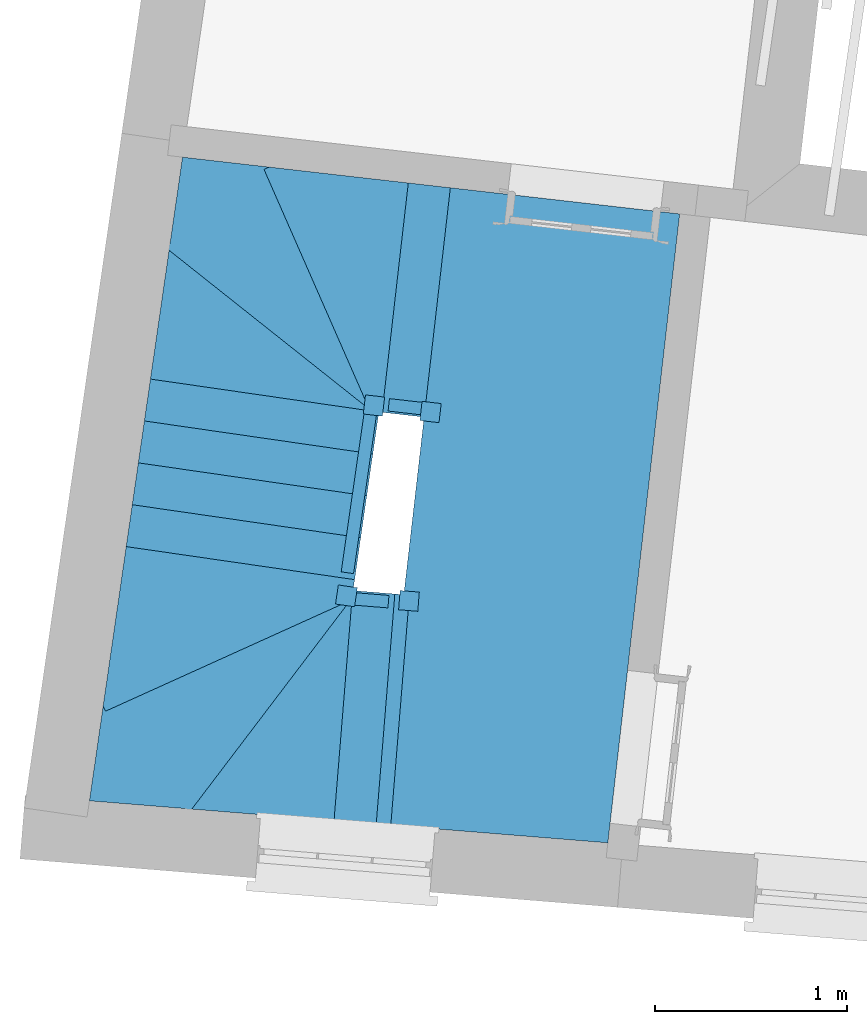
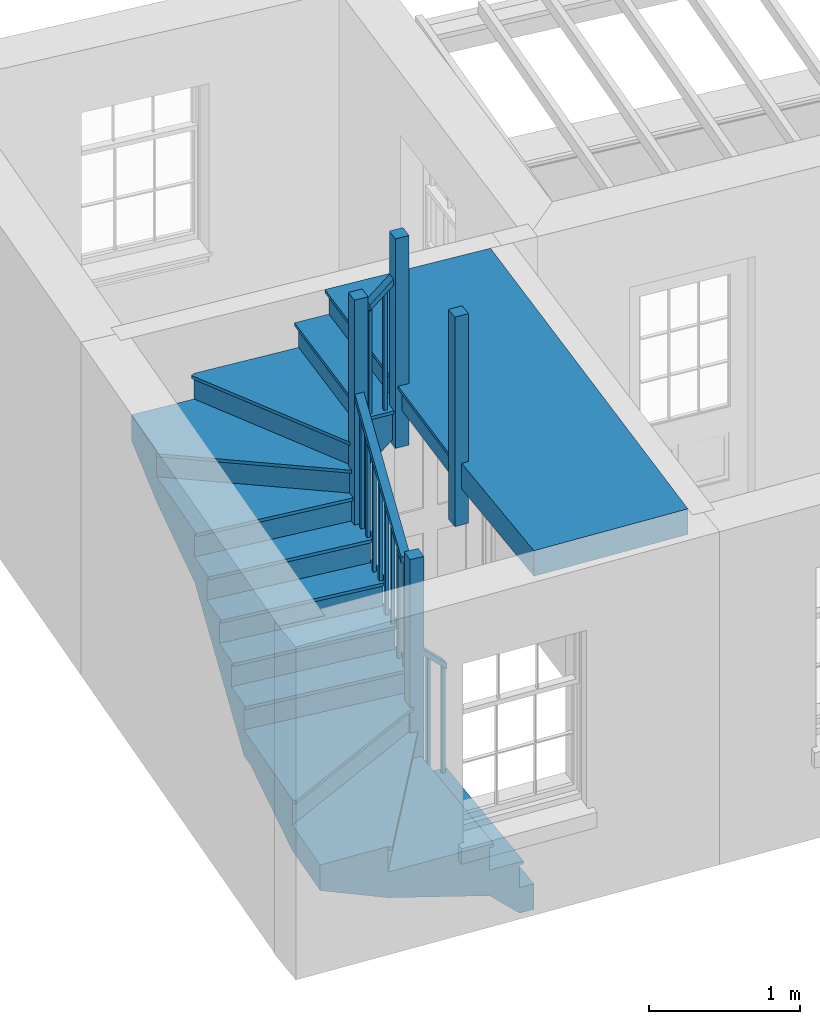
# One storey, part 5 of 5: 1 stair.
"""IFC4 building model written with IfcOpenShell, lengths in metres."""

from ifc_helpers import new_model, si_unit, frame, origin, origin_with_axes, place, context, subcontext, project, spatial, faceted_brep, element, save


model = new_model("IFC4")

# Units and contexts
model_context = context("Model", 3, world=origin_with_axes())
body_context = subcontext(model_context, "Body", "Model", "MODEL_VIEW")
ifc_project = project(units=[si_unit("PLANEANGLEUNIT", "RADIAN"), si_unit("MASSUNIT", "GRAM", prefix="KILO"), si_unit("FORCEUNIT", "NEWTON", prefix="KILO"), si_unit("LENGTHUNIT", "METRE"), si_unit("AREAUNIT", "SQUARE_METRE"), si_unit("VOLUMEUNIT", "CUBIC_METRE")], contexts=[model_context, model_context])

# Sites, building, storey
site_1_placement = place(None, origin_with_axes())
site_1 = spatial("IfcSite", under=ifc_project, at=site_1_placement, Name="Tamar")
site_2_placement = place(site_1_placement, origin_with_axes())
site_2 = spatial("IfcSite", under=site_1, at=site_2_placement, Name="Site plot-31", CompositionType="ELEMENT")
building_placement = place(None, origin_with_axes())
building = spatial("IfcBuilding", under=site_2, at=building_placement, Name="Building plot-31", CompositionType="ELEMENT")
storey_placement = place(None, frame((0.0, 0.0, 28.65), z_axis=(0.0, 0.0, 1.0), x_axis=(1.0, 0.0, 0.0)))
storey = spatial("IfcBuildingStorey", under=building, at=storey_placement, Name="plot-31 1", CompositionType="ELEMENT", Elevation=28.65)

# Stair
stair_placement = place(None, origin())
element("IfcStair", 1, at=stair_placement, inside=storey, Name="Stair", PredefinedType="NOTDEFINED", context=body_context, shape_type="Brep", body=[
    faceted_brep([(294.32439, 259.979623, 31.142308), (294.457181, 261.142063, 31.142308), (294.238602, 261.167032, 31.142308), (294.105811, 260.004593, 31.142308), (294.105811, 260.004593, 30.726923), (294.238602, 261.167032, 30.726923), (294.457181, 261.142063, 30.934615), (294.32439, 259.979623, 30.934615)], [[[0, 1, 2, 3]], [[4, 5, 6, 7]], [[7, 6, 1, 0]], [[1, 6, 5, 2]], [[5, 4, 3, 2]], [[3, 4, 7, 0]]]),
    faceted_brep([(294.208796, 261.170437, 31.117308), (294.208796, 261.170437, 31.142308), (294.238602, 261.167032, 31.117308), (294.486987, 261.138658, 31.142308), (294.486987, 261.138658, 31.117308), (294.457181, 261.142063, 31.117308), (294.238602, 261.167032, 31.142308), (294.457181, 261.142063, 31.142308), (294.0726, 259.978191, 31.142308), (294.105811, 260.004593, 31.142308), (294.105811, 260.004593, 31.117308), (294.0726, 259.978191, 31.117308), (294.350791, 259.946412, 31.142308), (294.32439, 259.979623, 31.142308), (294.32439, 259.979623, 31.117308), (294.350791, 259.946412, 31.117308)], [[[0, 1, 2]], [[3, 4, 5]], [[2, 1, 6]], [[3, 5, 7]], [[6, 1, 8, 9]], [[2, 6, 9, 10]], [[0, 2, 10, 11]], [[1, 0, 11, 8]], [[9, 8, 12, 13]], [[10, 9, 13, 14]], [[11, 10, 14, 15]], [[8, 11, 15, 12]], [[13, 12, 3, 7]], [[14, 13, 7, 5]], [[15, 14, 5, 4]], [[12, 15, 4, 3]]]),
    faceted_brep([(294.105811, 260.004593, 32.042308), (294.13065, 260.001755, 32.042308), (294.133487, 260.026594, 32.042308), (294.108649, 260.029431, 32.042308), (294.108649, 260.029431, 31.142308), (294.133487, 260.026594, 31.142308), (294.13065, 260.001755, 31.142308), (294.105811, 260.004593, 31.142308)], [[[0, 1, 2, 3]], [[4, 5, 6, 7]], [[7, 6, 1, 0]], [[6, 5, 2, 1]], [[5, 4, 3, 2]], [[4, 7, 0, 3]]]),
    faceted_brep([(294.215101, 259.992108, 32.146154), (294.239939, 259.989271, 32.146154), (294.242776, 260.014109, 32.146154), (294.217938, 260.016946, 32.146154), (294.217938, 260.016946, 31.142308), (294.242776, 260.014109, 31.142308), (294.239939, 259.989271, 31.142308), (294.215101, 259.992108, 31.142308)], [[[0, 1, 2, 3]], [[4, 5, 6, 7]], [[7, 6, 1, 0]], [[6, 5, 2, 1]], [[5, 4, 3, 2]], [[4, 7, 0, 3]]]),
    faceted_brep([(294.110919, 260.049302, 31.992308), (294.103541, 259.984722, 31.992308), (294.103541, 259.984722, 32.042308), (294.110919, 260.049302, 32.042308), (294.32212, 259.959753, 32.2), (294.329497, 260.024333, 32.2), (294.329497, 260.024333, 32.25), (294.32212, 259.959753, 32.25)], [[[0, 1, 2, 3]], [[4, 5, 6, 7]], [[0, 5, 4, 1]], [[3, 2, 7, 6]], [[0, 3, 6, 5]], [[2, 1, 4, 7]]]),
    faceted_brep([(294.105811, 260.004593, 30.934615), (294.238602, 261.167032, 30.934615), (294.163074, 261.17566, 30.934615), (294.030283, 260.01322, 30.934615), (294.030283, 260.01322, 30.726923), (294.163074, 261.17566, 30.726923), (294.238602, 261.167032, 30.726923), (294.105811, 260.004593, 30.726923)], [[[0, 1, 2, 3]], [[4, 5, 6, 7]], [[7, 6, 1, 0]], [[6, 5, 2, 1]], [[5, 4, 3, 2]], [[4, 7, 0, 3]]]),
    faceted_brep([(294.026879, 259.983414, 30.909615), (294.026879, 259.983414, 30.934615), (294.030283, 260.01322, 30.909615), (294.102406, 259.974786, 30.934615), (294.102406, 259.974786, 30.909615), (294.105811, 260.004593, 30.909615), (294.030283, 260.01322, 30.934615), (294.105811, 260.004593, 30.934615)], [[[0, 1, 2]], [[3, 4, 5]], [[2, 1, 6]], [[3, 5, 7]], [[6, 1, 3, 7]], [[2, 6, 7, 5]], [[0, 2, 5, 4]], [[1, 0, 4, 3]]]),
    faceted_brep([(293.974932, 259.969218, 32.134615), (294.074286, 259.957869, 32.134615), (294.085635, 260.057223, 32.134615), (293.986281, 260.068572, 32.134615), (293.986281, 260.068572, 30.934615), (294.085635, 260.057223, 30.934615), (294.074286, 259.957869, 30.934615), (293.974932, 259.969218, 30.934615)], [[[0, 1, 2, 3]], [[4, 5, 6, 7]], [[7, 6, 1, 0]], [[6, 5, 2, 1]], [[5, 4, 3, 2]], [[4, 7, 0, 3]]]),
    faceted_brep([(294.163074, 261.17566, 30.934615), (293.486139, 261.25299, 30.934615), (294.030283, 260.01322, 30.934615), (294.030283, 260.01322, 30.519231), (293.486139, 261.25299, 30.519231), (294.163074, 261.17566, 30.726923)], [[[0, 1, 2]], [[3, 4, 5]], [[0, 5, 4, 1]], [[4, 3, 2, 1]], [[2, 3, 5, 0]]]),
    faceted_brep([(293.486139, 261.25299, 30.909615), (293.458669, 261.240933, 30.909615), (293.486139, 261.25299, 30.934615), (294.002813, 260.001163, 30.909615), (294.030283, 260.01322, 30.909615), (294.030283, 260.01322, 30.934615), (293.458669, 261.240933, 30.934615), (294.002813, 260.001163, 30.934615)], [[[0, 1, 2]], [[3, 4, 5]], [[1, 6, 2]], [[7, 3, 5]], [[2, 6, 7, 5]], [[0, 2, 5, 4]], [[1, 0, 4, 3]], [[6, 1, 3, 7]]]),
    faceted_brep([(293.486139, 261.25299, 30.726923), (293.034849, 261.304543, 30.726923), (292.969841, 260.854994, 30.726923), (294.030283, 260.01322, 30.726923), (294.030283, 260.01322, 30.311538), (292.969841, 260.854994, 30.311538), (293.034849, 261.304543, 30.519231), (293.486139, 261.25299, 30.519231)], [[[0, 1, 2, 3]], [[4, 5, 6, 7]], [[7, 6, 1, 0]], [[1, 6, 5, 2]], [[5, 4, 3, 2]], [[3, 4, 7, 0]]]),
    faceted_brep([(292.969841, 260.854994, 30.701923), (292.951189, 260.831497, 30.701923), (292.969841, 260.854994, 30.726923), (294.011632, 259.989723, 30.701923), (294.030283, 260.01322, 30.701923), (294.030283, 260.01322, 30.726923), (292.951189, 260.831497, 30.726923), (294.011632, 259.989723, 30.726923)], [[[0, 1, 2]], [[3, 4, 5]], [[1, 6, 2]], [[7, 3, 5]], [[2, 6, 7, 5]], [[0, 2, 5, 4]], [[1, 0, 4, 3]], [[6, 1, 3, 7]]]),
    faceted_brep([(292.969841, 260.854994, 30.519231), (292.872328, 260.18067, 30.519231), (294.030283, 260.01322, 30.519231), (294.030283, 260.01322, 30.103846), (292.872328, 260.18067, 30.103846), (292.969841, 260.854994, 30.311538)], [[[0, 1, 2]], [[3, 4, 5]], [[0, 5, 4, 1]], [[4, 3, 2, 1]], [[2, 3, 5, 0]]]),
    faceted_brep([(292.868034, 260.150979, 30.494231), (292.868034, 260.150979, 30.519231), (292.872328, 260.18067, 30.494231), (294.02599, 259.983529, 30.519231), (294.02599, 259.983529, 30.494231), (294.030283, 260.01322, 30.494231), (292.872328, 260.18067, 30.519231), (294.030283, 260.01322, 30.519231)], [[[0, 1, 2]], [[3, 4, 5]], [[2, 1, 6]], [[3, 5, 7]], [[6, 1, 3, 7]], [[2, 6, 7, 5]], [[0, 2, 5, 4]], [[1, 0, 4, 3]]]),
    faceted_brep([(293.974932, 259.969218, 30.934615), (294.074286, 259.957869, 30.934615), (294.085635, 260.057223, 30.934615), (293.986281, 260.068572, 30.934615), (293.986281, 260.068572, 30.019231), (294.085635, 260.057223, 30.019231), (294.074286, 259.957869, 30.019231), (293.974932, 259.969218, 30.019231)], [[[0, 1, 2, 3]], [[4, 5, 6, 7]], [[7, 6, 1, 0]], [[6, 5, 2, 1]], [[5, 4, 3, 2]], [[4, 7, 0, 3]]]),
    faceted_brep([(294.030283, 260.01322, 30.311538), (292.872328, 260.18067, 30.311538), (292.840842, 259.962935, 30.311538), (293.998797, 259.795485, 30.311538), (293.998797, 259.795485, 29.896154), (292.840842, 259.962935, 29.896154), (292.872328, 260.18067, 30.103846), (294.030283, 260.01322, 30.103846)], [[[0, 1, 2, 3]], [[4, 5, 6, 7]], [[7, 6, 1, 0]], [[1, 6, 5, 2]], [[5, 4, 3, 2]], [[3, 4, 7, 0]]]),
    faceted_brep([(292.836548, 259.933244, 30.286538), (292.836548, 259.933244, 30.311538), (292.840842, 259.962935, 30.286538), (292.876622, 260.210361, 30.311538), (292.876622, 260.210361, 30.286538), (292.872328, 260.18067, 30.286538), (292.840842, 259.962935, 30.311538), (292.872328, 260.18067, 30.311538), (294.024195, 259.761501, 30.311538), (293.998797, 259.795485, 30.311538), (293.998797, 259.795485, 30.286538), (294.024195, 259.761501, 30.286538), (294.064268, 260.038618, 30.311538), (294.030283, 260.01322, 30.311538), (294.030283, 260.01322, 30.286538), (294.064268, 260.038618, 30.286538)], [[[0, 1, 2]], [[3, 4, 5]], [[2, 1, 6]], [[3, 5, 7]], [[6, 1, 8, 9]], [[2, 6, 9, 10]], [[0, 2, 10, 11]], [[1, 0, 11, 8]], [[9, 8, 12, 13]], [[10, 9, 13, 14]], [[11, 10, 14, 15]], [[8, 11, 15, 12]], [[13, 12, 3, 7]], [[14, 13, 7, 5]], [[15, 14, 5, 4]], [[12, 15, 4, 3]]]),
    faceted_brep([(293.998797, 259.795485, 31.211538), (294.002375, 259.820228, 31.211538), (293.977633, 259.823806, 31.211538), (293.974055, 259.799063, 31.211538), (293.974055, 259.799063, 30.311538), (293.977633, 259.823806, 30.311538), (294.002375, 259.820228, 30.311538), (293.998797, 259.795485, 30.311538)], [[[0, 1, 2, 3]], [[4, 5, 6, 7]], [[7, 6, 1, 0]], [[6, 5, 2, 1]], [[5, 4, 3, 2]], [[4, 7, 0, 3]]]),
    faceted_brep([(294.01454, 259.904353, 31.315385), (294.018118, 259.929095, 31.315385), (293.993376, 259.932673, 31.315385), (293.989798, 259.907931, 31.315385), (293.989798, 259.907931, 30.311538), (293.993376, 259.932673, 30.311538), (294.018118, 259.929095, 30.311538), (294.01454, 259.904353, 30.311538)], [[[0, 1, 2, 3]], [[4, 5, 6, 7]], [[7, 6, 1, 0]], [[6, 5, 2, 1]], [[5, 4, 3, 2]], [[4, 7, 0, 3]]]),
    faceted_brep([(293.95426, 259.801926, 31.161538), (294.018591, 259.792623, 31.161538), (294.018591, 259.792623, 31.211538), (293.95426, 259.801926, 31.211538), (294.050078, 260.010358, 31.369231), (293.985747, 260.019661, 31.369231), (293.985747, 260.019661, 31.419231), (294.050078, 260.010358, 31.419231)], [[[0, 1, 2, 3]], [[4, 5, 6, 7]], [[0, 5, 4, 1]], [[3, 2, 7, 6]], [[0, 3, 6, 5]], [[2, 1, 4, 7]]]),
    faceted_brep([(293.998797, 259.795485, 30.103846), (292.840842, 259.962935, 30.103846), (292.809356, 259.745199, 30.103846), (293.967311, 259.57775, 30.103846), (293.967311, 259.57775, 29.688462), (292.809356, 259.745199, 29.688462), (292.840842, 259.962935, 29.896154), (293.998797, 259.795485, 29.896154)], [[[0, 1, 2, 3]], [[4, 5, 6, 7]], [[7, 6, 1, 0]], [[1, 6, 5, 2]], [[5, 4, 3, 2]], [[3, 4, 7, 0]]]),
    faceted_brep([(292.805062, 259.715508, 30.078846), (292.805062, 259.715508, 30.103846), (292.809356, 259.745199, 30.078846), (292.845135, 259.992626, 30.103846), (292.845135, 259.992626, 30.078846), (292.840842, 259.962935, 30.078846), (292.809356, 259.745199, 30.103846), (292.840842, 259.962935, 30.103846), (293.992709, 259.543765, 30.103846), (293.967311, 259.57775, 30.103846), (293.967311, 259.57775, 30.078846), (293.992709, 259.543765, 30.078846), (294.032782, 259.820883, 30.103846), (293.998797, 259.795485, 30.103846), (293.998797, 259.795485, 30.078846), (294.032782, 259.820883, 30.078846)], [[[0, 1, 2]], [[3, 4, 5]], [[2, 1, 6]], [[3, 5, 7]], [[6, 1, 8, 9]], [[2, 6, 9, 10]], [[0, 2, 10, 11]], [[1, 0, 11, 8]], [[9, 8, 12, 13]], [[10, 9, 13, 14]], [[11, 10, 14, 15]], [[8, 11, 15, 12]], [[13, 12, 3, 7]], [[14, 13, 7, 5]], [[15, 14, 5, 4]], [[12, 15, 4, 3]]]),
    faceted_brep([(293.967311, 259.57775, 31.003846), (293.970889, 259.602493, 31.003846), (293.946146, 259.606071, 31.003846), (293.942568, 259.581328, 31.003846), (293.942568, 259.581328, 30.103846), (293.946146, 259.606071, 30.103846), (293.970889, 259.602493, 30.103846), (293.967311, 259.57775, 30.103846)], [[[0, 1, 2, 3]], [[4, 5, 6, 7]], [[7, 6, 1, 0]], [[6, 5, 2, 1]], [[5, 4, 3, 2]], [[4, 7, 0, 3]]]),
    faceted_brep([(293.983054, 259.686618, 31.107692), (293.986632, 259.71136, 31.107692), (293.961889, 259.714938, 31.107692), (293.958311, 259.690196, 31.107692), (293.958311, 259.690196, 30.103846), (293.961889, 259.714938, 30.103846), (293.986632, 259.71136, 30.103846), (293.983054, 259.686618, 30.103846)], [[[0, 1, 2, 3]], [[4, 5, 6, 7]], [[7, 6, 1, 0]], [[6, 5, 2, 1]], [[5, 4, 3, 2]], [[4, 7, 0, 3]]]),
    faceted_brep([(293.922774, 259.58419, 30.953846), (293.987105, 259.574888, 30.953846), (293.987105, 259.574888, 31.003846), (293.922774, 259.58419, 31.003846), (294.018591, 259.792623, 31.161538), (293.95426, 259.801926, 31.161538), (293.95426, 259.801926, 31.211538), (294.018591, 259.792623, 31.211538)], [[[0, 1, 2, 3]], [[4, 5, 6, 7]], [[0, 5, 4, 1]], [[3, 2, 7, 6]], [[0, 3, 6, 5]], [[2, 1, 4, 7]]]),
    faceted_brep([(293.967311, 259.57775, 29.896154), (292.809356, 259.745199, 29.896154), (292.777869, 259.527464, 29.896154), (293.935825, 259.360015, 29.896154), (293.935825, 259.360015, 29.480769), (292.777869, 259.527464, 29.480769), (292.809356, 259.745199, 29.688462), (293.967311, 259.57775, 29.688462)], [[[0, 1, 2, 3]], [[4, 5, 6, 7]], [[7, 6, 1, 0]], [[1, 6, 5, 2]], [[5, 4, 3, 2]], [[3, 4, 7, 0]]]),
    faceted_brep([(292.777869, 259.527464, 29.871154), (292.773576, 259.497773, 29.871154), (292.777869, 259.527464, 29.896154), (292.813649, 259.774891, 29.871154), (292.809356, 259.745199, 29.871154), (292.809356, 259.745199, 29.896154), (292.773576, 259.497773, 29.896154), (292.813649, 259.774891, 29.896154), (293.961222, 259.32603, 29.896154), (293.935825, 259.360015, 29.896154), (293.935825, 259.360015, 29.871154), (293.961222, 259.32603, 29.871154), (294.001296, 259.603148, 29.896154), (293.967311, 259.57775, 29.896154), (293.967311, 259.57775, 29.871154), (294.001296, 259.603148, 29.871154)], [[[0, 1, 2]], [[3, 4, 5]], [[1, 6, 2]], [[7, 3, 5]], [[2, 6, 8, 9]], [[0, 2, 9, 10]], [[1, 0, 10, 11]], [[6, 1, 11, 8]], [[9, 8, 12, 13]], [[10, 9, 13, 14]], [[11, 10, 14, 15]], [[8, 11, 15, 12]], [[13, 12, 7, 5]], [[14, 13, 5, 4]], [[15, 14, 4, 3]], [[12, 15, 3, 7]]]),
    faceted_brep([(293.935825, 259.360015, 30.796154), (293.939403, 259.384757, 30.796154), (293.91466, 259.388335, 30.796154), (293.911082, 259.363593, 30.796154), (293.911082, 259.363593, 29.896154), (293.91466, 259.388335, 29.896154), (293.939403, 259.384757, 29.896154), (293.935825, 259.360015, 29.896154)], [[[0, 1, 2, 3]], [[4, 5, 6, 7]], [[7, 6, 1, 0]], [[6, 5, 2, 1]], [[5, 4, 3, 2]], [[4, 7, 0, 3]]]),
    faceted_brep([(293.951568, 259.468882, 30.9), (293.955146, 259.493625, 30.9), (293.930403, 259.497203, 30.9), (293.926825, 259.47246, 30.9), (293.926825, 259.47246, 29.896154), (293.930403, 259.497203, 29.896154), (293.955146, 259.493625, 29.896154), (293.951568, 259.468882, 29.896154)], [[[0, 1, 2, 3]], [[4, 5, 6, 7]], [[7, 6, 1, 0]], [[6, 5, 2, 1]], [[5, 4, 3, 2]], [[4, 7, 0, 3]]]),
    faceted_brep([(293.891288, 259.366455, 30.746154), (293.955619, 259.357152, 30.746154), (293.955619, 259.357152, 30.796154), (293.891288, 259.366455, 30.796154), (293.987105, 259.574888, 30.953846), (293.922774, 259.58419, 30.953846), (293.922774, 259.58419, 31.003846), (293.987105, 259.574888, 31.003846)], [[[0, 1, 2, 3]], [[4, 5, 6, 7]], [[0, 5, 4, 1]], [[3, 2, 7, 6]], [[0, 3, 6, 5]], [[2, 1, 4, 7]]]),
    faceted_brep([(293.935825, 259.360015, 29.688462), (292.777869, 259.527464, 29.688462), (292.746383, 259.309729, 29.688462), (293.904339, 259.14228, 29.688462), (293.904339, 259.14228, 29.273077), (292.746383, 259.309729, 29.273077), (292.777869, 259.527464, 29.480769), (293.935825, 259.360015, 29.480769)], [[[0, 1, 2, 3]], [[4, 5, 6, 7]], [[7, 6, 1, 0]], [[1, 6, 5, 2]], [[5, 4, 3, 2]], [[3, 4, 7, 0]]]),
    faceted_brep([(292.74209, 259.280038, 29.663462), (292.74209, 259.280038, 29.688462), (292.746383, 259.309729, 29.663462), (292.782163, 259.557155, 29.688462), (292.782163, 259.557155, 29.663462), (292.777869, 259.527464, 29.663462), (292.746383, 259.309729, 29.688462), (292.777869, 259.527464, 29.688462), (293.929736, 259.108295, 29.688462), (293.904339, 259.14228, 29.688462), (293.904339, 259.14228, 29.663462), (293.929736, 259.108295, 29.663462), (293.96981, 259.385412, 29.688462), (293.935825, 259.360015, 29.688462), (293.935825, 259.360015, 29.663462), (293.96981, 259.385412, 29.663462)], [[[0, 1, 2]], [[3, 4, 5]], [[2, 1, 6]], [[3, 5, 7]], [[6, 1, 8, 9]], [[2, 6, 9, 10]], [[0, 2, 10, 11]], [[1, 0, 11, 8]], [[9, 8, 12, 13]], [[10, 9, 13, 14]], [[11, 10, 14, 15]], [[8, 11, 15, 12]], [[13, 12, 3, 7]], [[14, 13, 7, 5]], [[15, 14, 5, 4]], [[12, 15, 4, 3]]]),
    faceted_brep([(293.904339, 259.14228, 30.588462), (293.907917, 259.167022, 30.588462), (293.883174, 259.1706, 30.588462), (293.879596, 259.145858, 30.588462), (293.879596, 259.145858, 29.688462), (293.883174, 259.1706, 29.688462), (293.907917, 259.167022, 29.688462), (293.904339, 259.14228, 29.688462)], [[[0, 1, 2, 3]], [[4, 5, 6, 7]], [[7, 6, 1, 0]], [[6, 5, 2, 1]], [[5, 4, 3, 2]], [[4, 7, 0, 3]]]),
    faceted_brep([(293.920082, 259.251147, 30.692308), (293.92366, 259.27589, 30.692308), (293.898917, 259.279468, 30.692308), (293.895339, 259.254725, 30.692308), (293.895339, 259.254725, 29.688462), (293.898917, 259.279468, 29.688462), (293.92366, 259.27589, 29.688462), (293.920082, 259.251147, 29.688462)], [[[0, 1, 2, 3]], [[4, 5, 6, 7]], [[7, 6, 1, 0]], [[6, 5, 2, 1]], [[5, 4, 3, 2]], [[4, 7, 0, 3]]]),
    faceted_brep([(293.859802, 259.14872, 30.538462), (293.924133, 259.139417, 30.538462), (293.924133, 259.139417, 30.588462), (293.859802, 259.14872, 30.588462), (293.955619, 259.357152, 30.746154), (293.891288, 259.366455, 30.746154), (293.891288, 259.366455, 30.796154), (293.955619, 259.357152, 30.796154)], [[[0, 1, 2, 3]], [[4, 5, 6, 7]], [[0, 5, 4, 1]], [[3, 2, 7, 6]], [[0, 3, 6, 5]], [[2, 1, 4, 7]]]),
    faceted_brep([(293.904339, 259.14228, 29.480769), (292.746383, 259.309729, 29.480769), (292.729265, 259.191353, 29.480769), (293.887221, 259.023904, 29.480769), (293.887221, 259.023904, 29.273077), (292.729265, 259.191353, 29.273077), (292.746383, 259.309729, 29.273077), (293.904339, 259.14228, 29.273077)], [[[0, 1, 2, 3]], [[4, 5, 6, 7]], [[7, 6, 1, 0]], [[6, 5, 2, 1]], [[5, 4, 3, 2]], [[4, 7, 0, 3]]]),
    faceted_brep([(293.916912, 259.01961, 29.455769), (293.916912, 259.01961, 29.480769), (293.887221, 259.023904, 29.455769), (293.93403, 259.137986, 29.480769), (293.93403, 259.137986, 29.455769), (293.904339, 259.14228, 29.455769), (293.887221, 259.023904, 29.480769), (293.904339, 259.14228, 29.480769)], [[[0, 1, 2]], [[3, 4, 5]], [[2, 1, 6]], [[3, 5, 7]], [[6, 1, 3, 7]], [[2, 6, 7, 5]], [[0, 2, 5, 4]], [[1, 0, 4, 3]]]),
    faceted_brep([(293.92955, 258.967263, 30.680769), (293.943862, 259.066233, 30.680769), (293.844891, 259.080545, 30.680769), (293.830579, 258.981575, 30.680769), (293.830579, 258.981575, 29.480769), (293.844891, 259.080545, 29.480769), (293.943862, 259.066233, 29.480769), (293.92955, 258.967263, 29.480769)], [[[0, 1, 2, 3]], [[4, 5, 6, 7]], [[7, 6, 1, 0]], [[6, 5, 2, 1]], [[5, 4, 3, 2]], [[4, 7, 0, 3]]]),
    faceted_brep([(292.729265, 259.191353, 29.480769), (292.622286, 258.451564, 29.480769), (293.887221, 259.023904, 29.480769), (293.887221, 259.023904, 29.065385), (292.622286, 258.451564, 29.065385), (292.729265, 259.191353, 29.273077)], [[[0, 1, 2]], [[3, 4, 5]], [[0, 5, 4, 1]], [[4, 3, 2, 1]], [[2, 3, 5, 0]]]),
    faceted_brep([(292.634653, 258.424232, 29.455769), (292.634653, 258.424232, 29.480769), (292.622286, 258.451564, 29.455769), (293.899587, 258.996572, 29.480769), (293.899587, 258.996572, 29.455769), (293.887221, 259.023904, 29.455769), (292.622286, 258.451564, 29.480769), (293.887221, 259.023904, 29.480769)], [[[0, 1, 2]], [[3, 4, 5]], [[2, 1, 6]], [[3, 5, 7]], [[6, 1, 3, 7]], [[2, 6, 7, 5]], [[0, 2, 5, 4]], [[1, 0, 4, 3]]]),
    faceted_brep([(292.622286, 258.451564, 29.273077), (292.550966, 257.958371, 29.273077), (293.04766, 257.918114, 29.273077), (293.887221, 259.023904, 29.273077), (293.887221, 259.023904, 28.857692), (293.04766, 257.918114, 28.857692), (292.550966, 257.958371, 29.065385), (292.622286, 258.451564, 29.065385)], [[[0, 1, 2, 3]], [[4, 5, 6, 7]], [[7, 6, 1, 0]], [[1, 6, 5, 2]], [[5, 4, 3, 2]], [[3, 4, 7, 0]]]),
    faceted_brep([(293.04766, 257.918114, 29.248077), (293.071554, 257.899973, 29.248077), (293.04766, 257.918114, 29.273077), (293.911114, 259.005763, 29.248077), (293.887221, 259.023904, 29.248077), (293.887221, 259.023904, 29.273077), (293.071554, 257.899973, 29.273077), (293.911114, 259.005763, 29.273077)], [[[0, 1, 2]], [[3, 4, 5]], [[1, 6, 2]], [[7, 3, 5]], [[2, 6, 7, 5]], [[0, 2, 5, 4]], [[1, 0, 4, 3]], [[6, 1, 3, 7]]]),
    faceted_brep([(293.04766, 257.918114, 29.065385), (293.792702, 257.857728, 29.065385), (293.887221, 259.023904, 29.065385), (293.887221, 259.023904, 28.65), (293.792702, 257.857728, 28.65), (293.04766, 257.918114, 28.857692)], [[[0, 1, 2]], [[3, 4, 5]], [[0, 5, 4, 1]], [[4, 3, 2, 1]], [[2, 3, 5, 0]]]),
    faceted_brep([(293.822604, 257.855305, 29.040385), (293.822604, 257.855305, 29.065385), (293.792702, 257.857728, 29.040385), (293.917122, 259.02148, 29.065385), (293.917122, 259.02148, 29.040385), (293.887221, 259.023904, 29.040385), (293.792702, 257.857728, 29.065385), (293.887221, 259.023904, 29.065385)], [[[0, 1, 2]], [[3, 4, 5]], [[2, 1, 6]], [[3, 5, 7]], [[6, 1, 3, 7]], [[2, 6, 7, 5]], [[0, 2, 5, 4]], [[1, 0, 4, 3]]]),
    faceted_brep([(293.92955, 258.967263, 29.480769), (293.943862, 259.066233, 29.480769), (293.844891, 259.080545, 29.480769), (293.830579, 258.981575, 29.480769), (293.830579, 258.981575, 28.565385), (293.844891, 259.080545, 28.565385), (293.943862, 259.066233, 28.565385), (293.92955, 258.967263, 28.565385)], [[[0, 1, 2, 3]], [[4, 5, 6, 7]], [[7, 6, 1, 0]], [[6, 5, 2, 1]], [[5, 4, 3, 2]], [[4, 7, 0, 3]]]),
    faceted_brep([(293.887221, 259.023904, 28.857692), (293.792702, 257.857728, 28.857692), (294.011983, 257.839955, 28.857692), (294.106501, 259.006131, 28.857692), (294.106501, 259.006131, 28.442308), (294.011983, 257.839955, 28.442308), (293.792702, 257.857728, 28.65), (293.887221, 259.023904, 28.65)], [[[0, 1, 2, 3]], [[4, 5, 6, 7]], [[7, 6, 1, 0]], [[1, 6, 5, 2]], [[5, 4, 3, 2]], [[3, 4, 7, 0]]]),
    faceted_brep([(294.011983, 257.839955, 28.832692), (294.041885, 257.837532, 28.832692), (294.011983, 257.839955, 28.857692), (293.7628, 257.860152, 28.832692), (293.792702, 257.857728, 28.832692), (293.792702, 257.857728, 28.857692), (294.041885, 257.837532, 28.857692), (293.7628, 257.860152, 28.857692), (294.138827, 259.03361, 28.857692), (294.106501, 259.006131, 28.857692), (294.106501, 259.006131, 28.832692), (294.138827, 259.03361, 28.832692), (293.859742, 259.05623, 28.857692), (293.887221, 259.023904, 28.857692), (293.887221, 259.023904, 28.832692), (293.859742, 259.05623, 28.832692)], [[[0, 1, 2]], [[3, 4, 5]], [[1, 6, 2]], [[7, 3, 5]], [[2, 6, 8, 9]], [[0, 2, 9, 10]], [[1, 0, 10, 11]], [[6, 1, 11, 8]], [[9, 8, 12, 13]], [[10, 9, 13, 14]], [[11, 10, 14, 15]], [[8, 11, 15, 12]], [[13, 12, 7, 5]], [[14, 13, 5, 4]], [[15, 14, 4, 3]], [[12, 15, 3, 7]]]),
    faceted_brep([(294.106501, 259.006131, 29.757692), (294.081583, 259.008151, 29.757692), (294.079564, 258.983233, 29.757692), (294.104482, 258.981213, 29.757692), (294.104482, 258.981213, 28.857692), (294.079564, 258.983233, 28.857692), (294.081583, 259.008151, 28.857692), (294.106501, 259.006131, 28.857692)], [[[0, 1, 2, 3]], [[4, 5, 6, 7]], [[7, 6, 1, 0]], [[6, 5, 2, 1]], [[5, 4, 3, 2]], [[4, 7, 0, 3]]]),
    faceted_brep([(293.996861, 259.015018, 29.861538), (293.971943, 259.017037, 29.861538), (293.969923, 258.992119, 29.861538), (293.994841, 258.990099, 29.861538), (293.994841, 258.990099, 28.857692), (293.969923, 258.992119, 28.857692), (293.971943, 259.017037, 28.857692), (293.996861, 259.015018, 28.857692)], [[[0, 1, 2, 3]], [[4, 5, 6, 7]], [[7, 6, 1, 0]], [[6, 5, 2, 1]], [[5, 4, 3, 2]], [[4, 7, 0, 3]]]),
    faceted_brep([(294.102866, 258.961278, 29.707692), (294.108117, 259.026066, 29.707692), (294.108117, 259.026066, 29.757692), (294.102866, 258.961278, 29.757692), (293.888836, 259.043839, 29.915385), (293.883585, 258.979051, 29.915385), (293.883585, 258.979051, 29.965385), (293.888836, 259.043839, 29.965385)], [[[0, 1, 2, 3]], [[4, 5, 6, 7]], [[0, 5, 4, 1]], [[3, 2, 7, 6]], [[0, 3, 6, 5]], [[2, 1, 4, 7]]]),
    faceted_brep([(294.106501, 259.006131, 28.65), (294.011983, 257.839955, 28.65), (294.117686, 257.831388, 28.65), (294.212205, 258.997564, 28.65), (294.212205, 258.997564, 28.442308), (294.117686, 257.831388, 28.442308), (294.011983, 257.839955, 28.442308), (294.106501, 259.006131, 28.442308)], [[[0, 1, 2, 3]], [[4, 5, 6, 7]], [[7, 6, 1, 0]], [[6, 5, 2, 1]], [[5, 4, 3, 2]], [[4, 7, 0, 3]]]),
    faceted_brep([(294.214628, 259.027466, 28.625), (294.214628, 259.027466, 28.65), (294.212205, 258.997564, 28.625), (294.108925, 259.036033, 28.65), (294.108925, 259.036033, 28.625), (294.106501, 259.006131, 28.625), (294.212205, 258.997564, 28.65), (294.106501, 259.006131, 28.65)], [[[0, 1, 2]], [[3, 4, 5]], [[2, 1, 6]], [[3, 5, 7]], [[6, 1, 3, 7]], [[2, 6, 7, 5]], [[0, 2, 5, 4]], [[1, 0, 4, 3]]]),
    faceted_brep([(294.26608, 259.043361, 32.55), (294.166407, 259.05144, 32.55), (294.158329, 258.951767, 32.55), (294.258002, 258.943688, 32.55), (294.258002, 258.943688, 31.35), (294.158329, 258.951767, 31.35), (294.166407, 259.05144, 31.35), (294.26608, 259.043361, 31.35)], [[[0, 1, 2, 3]], [[4, 5, 6, 7]], [[7, 6, 1, 0]], [[6, 5, 2, 1]], [[5, 4, 3, 2]], [[4, 7, 0, 3]]]),
    faceted_brep([(294.212205, 258.997564, 31.35), (294.117686, 257.831388, 31.35), (295.246148, 257.739926, 31.35), (295.374645, 258.864773, 31.35), (295.374645, 258.864773, 31.142308), (295.246148, 257.739926, 31.142308), (294.117686, 257.831388, 31.142308), (294.212205, 258.997564, 31.142308)], [[[0, 1, 2, 3]], [[4, 5, 6, 7]], [[7, 6, 1, 0]], [[6, 5, 2, 1]], [[5, 4, 3, 2]], [[4, 7, 0, 3]]]),
    faceted_brep([(295.378049, 258.894579, 31.325), (295.378049, 258.894579, 31.35), (295.374645, 258.864773, 31.325), (294.215609, 259.02737, 31.35), (294.215609, 259.02737, 31.325), (294.212205, 258.997564, 31.325), (295.374645, 258.864773, 31.35), (294.212205, 258.997564, 31.35)], [[[0, 1, 2]], [[3, 4, 5]], [[2, 1, 6]], [[3, 5, 7]], [[6, 1, 3, 7]], [[2, 6, 7, 5]], [[0, 2, 5, 4]], [[1, 0, 4, 3]]]),
    faceted_brep([(294.26608, 259.043361, 31.35), (294.166407, 259.05144, 31.35), (294.158329, 258.951767, 31.35), (294.258002, 258.943688, 31.35), (294.258002, 258.943688, 30.85), (294.158329, 258.951767, 30.85), (294.166407, 259.05144, 30.85), (294.26608, 259.043361, 30.85)], [[[0, 1, 2, 3]], [[4, 5, 6, 7]], [[7, 6, 1, 0]], [[6, 5, 2, 1]], [[5, 4, 3, 2]], [[4, 7, 0, 3]]]),
    faceted_brep([(294.212205, 258.997564, 31.35), (295.374645, 258.864773, 31.35), (295.48683, 259.846832, 31.35), (294.32439, 259.979623, 31.35), (294.32439, 259.979623, 31.142308), (295.48683, 259.846832, 31.142308), (295.374645, 258.864773, 31.142308), (294.212205, 258.997564, 31.142308)], [[[0, 1, 2, 3]], [[4, 5, 6, 7]], [[7, 6, 1, 0]], [[6, 5, 2, 1]], [[5, 4, 3, 2]], [[4, 7, 0, 3]]]),
    faceted_brep([(294.32439, 259.979623, 31.325), (294.294584, 259.983028, 31.325), (294.32439, 259.979623, 31.35), (294.182398, 259.000969, 31.325), (294.212205, 258.997564, 31.325), (294.212205, 258.997564, 31.35), (294.294584, 259.983028, 31.35), (294.182398, 259.000969, 31.35)], [[[0, 1, 2]], [[3, 4, 5]], [[1, 6, 2]], [[7, 3, 5]], [[2, 6, 7, 5]], [[0, 2, 5, 4]], [[1, 0, 4, 3]], [[6, 1, 3, 7]]]),
    faceted_brep([(294.280388, 260.034975, 32.55), (294.269038, 259.935621, 32.55), (294.368392, 259.924272, 32.55), (294.379742, 260.023625, 32.55), (294.379742, 260.023625, 31.35), (294.368392, 259.924272, 31.35), (294.269038, 259.935621, 31.35), (294.280388, 260.034975, 31.35)], [[[0, 1, 2, 3]], [[4, 5, 6, 7]], [[7, 6, 1, 0]], [[6, 5, 2, 1]], [[5, 4, 3, 2]], [[4, 7, 0, 3]]]),
    faceted_brep([(294.32439, 259.979623, 31.35), (295.48683, 259.846832, 31.35), (295.619621, 261.009272, 31.35), (294.457181, 261.142063, 31.35), (294.457181, 261.142063, 31.142308), (295.619621, 261.009272, 31.142308), (295.48683, 259.846832, 31.142308), (294.32439, 259.979623, 31.142308)], [[[0, 1, 2, 3]], [[4, 5, 6, 7]], [[7, 6, 1, 0]], [[6, 5, 2, 1]], [[5, 4, 3, 2]], [[4, 7, 0, 3]]]),
    faceted_brep([(294.457181, 261.142063, 31.325), (294.427375, 261.145468, 31.325), (294.457181, 261.142063, 31.35), (294.294584, 259.983028, 31.325), (294.32439, 259.979623, 31.325), (294.32439, 259.979623, 31.35), (294.427375, 261.145468, 31.35), (294.294584, 259.983028, 31.35)], [[[0, 1, 2]], [[3, 4, 5]], [[1, 6, 2]], [[7, 3, 5]], [[2, 6, 7, 5]], [[0, 2, 5, 4]], [[1, 0, 4, 3]], [[6, 1, 3, 7]]]),
    faceted_brep([(294.280388, 260.034975, 31.35), (294.269038, 259.935621, 31.35), (294.368392, 259.924272, 31.35), (294.379742, 260.023625, 31.35), (294.379742, 260.023625, 30.85), (294.368392, 259.924272, 30.85), (294.269038, 259.935621, 30.85), (294.280388, 260.034975, 30.85)], [[[0, 1, 2, 3]], [[4, 5, 6, 7]], [[7, 6, 1, 0]], [[6, 5, 2, 1]], [[5, 4, 3, 2]], [[4, 7, 0, 3]]]),
])

save(model, "model.ifc")
